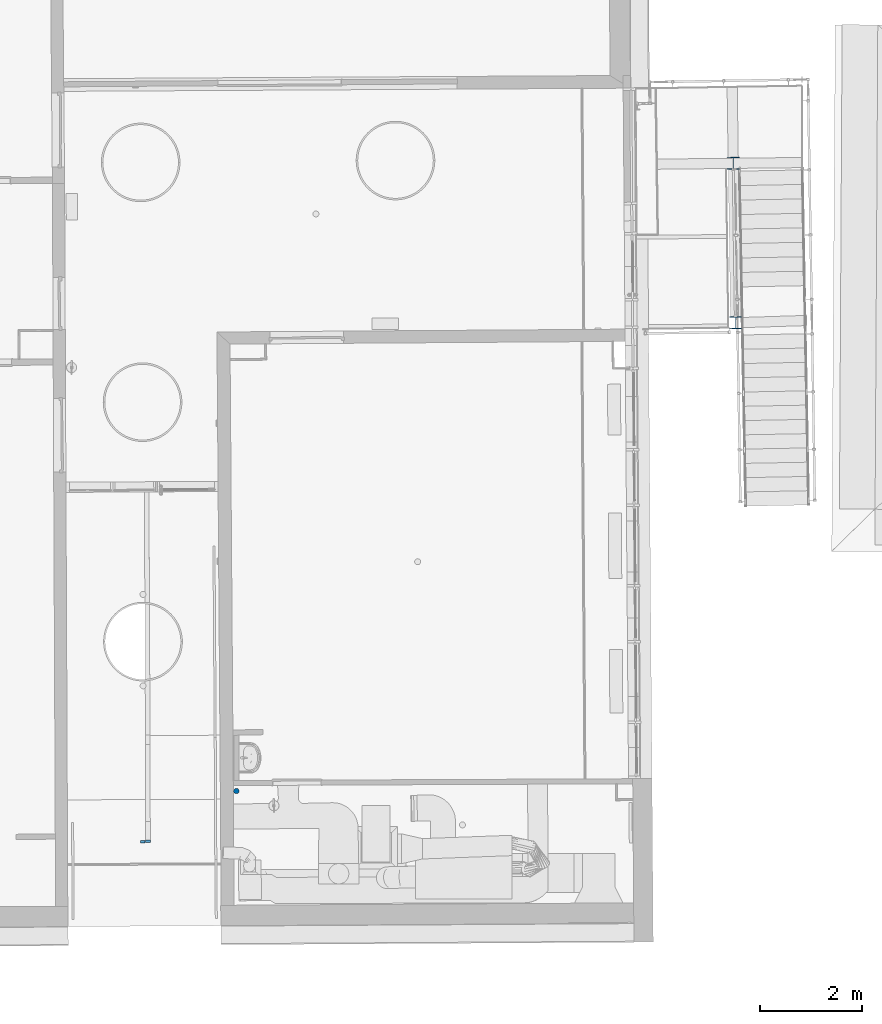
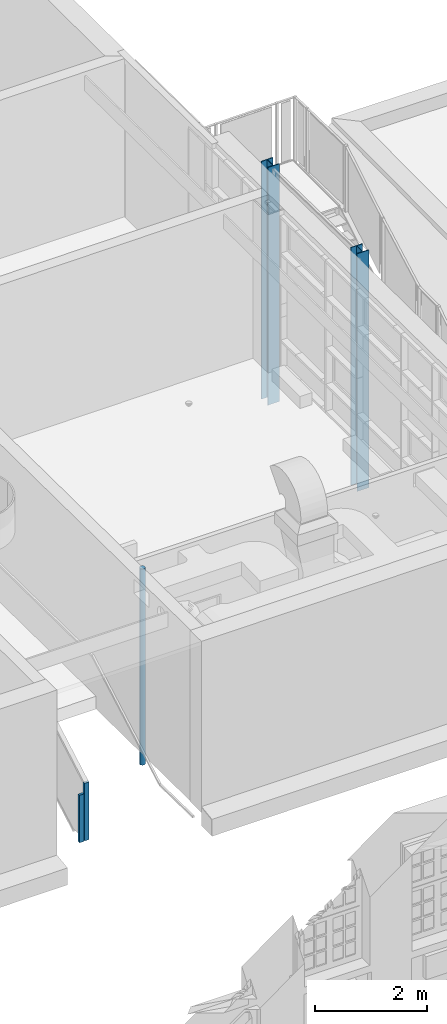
# One storey, part 1 of 158: 5 columns.
"""IFC2X3 building model written with IfcOpenShell, lengths in metres."""

from ifc_helpers import new_model, entity, si_unit, converted_unit, derived_unit, money_unit, direction, frame, origin_with_axes, origin_2d_with_axis, place, context, subcontext, project, spatial, polyline, rectangle, circle, outline, extrude, material, type_object, element, save


model = new_model("IFC2X3")

# Units and contexts
model_context = context("Model", 3, precision=1e-05, world=origin_with_axes(), true_north=direction((0.0, 1.0)))
body_context = subcontext(model_context, "Body", "Model", "MODEL_VIEW")
ifc_project = project(units=[si_unit("LENGTHUNIT", "METRE"), si_unit("AREAUNIT", "SQUARE_METRE"), si_unit("VOLUMEUNIT", "CUBIC_METRE"), converted_unit("PLANEANGLEUNIT", "DEGREE", entity("IfcPlaneAngleMeasure", 0.0174532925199), si_unit("PLANEANGLEUNIT", "RADIAN"), dimensions=[0, 0, 0, 0, 0, 0, 0]), money_unit("EUR"), converted_unit("TIMEUNIT", "Year", entity("IfcTimeMeasure", 31556926.0), si_unit("TIMEUNIT", "SECOND"), dimensions=[0, 0, 1, 0, 0, 0, 0]), si_unit("MASSUNIT", "GRAM", prefix="KILO"), si_unit("THERMODYNAMICTEMPERATUREUNIT", "DEGREE_CELSIUS"), si_unit("LUMINOUSINTENSITYUNIT", "LUMEN"), si_unit("ENERGYUNIT", "JOULE", prefix="MEGA"), derived_unit("THERMALCONDUCTANCEUNIT", [(si_unit("POWERUNIT", "WATT"), 1), (si_unit("LENGTHUNIT", "METRE"), -1), (si_unit("THERMODYNAMICTEMPERATUREUNIT", "KELVIN"), -1)]), derived_unit("SPECIFICHEATCAPACITYUNIT", [(si_unit("ENERGYUNIT", "JOULE"), 1), (si_unit("MASSUNIT", "GRAM", prefix="KILO"), -1), (si_unit("THERMODYNAMICTEMPERATUREUNIT", "KELVIN"), -1)]), derived_unit("MASSDENSITYUNIT", [(si_unit("MASSUNIT", "GRAM", prefix="KILO"), 1), (si_unit("VOLUMEUNIT", "CUBIC_METRE"), -1)])], contexts=[model_context])

# Site, building, storey
site_placement = place(None, origin_with_axes())
site = spatial("IfcSite", under=ifc_project, at=site_placement, Name="Gelände", CompositionType="ELEMENT")
building_placement = place(site_placement, origin_with_axes())
building = spatial("IfcBuilding", under=site, at=building_placement, Name="Gebäude", CompositionType="ELEMENT")
storey_placement = place(building_placement, origin_with_axes())
storey = spatial("IfcBuildingStorey", under=building, at=storey_placement, Name="ERDGESCHOSS", CompositionType="ELEMENT", Elevation=0.0)

# Columns
ifc_material_1 = material(Name="Stahl verzinkt")
column_type_1 = type_object("IfcColumnType", Name="HEB240 240 x 240", PredefinedType="COLUMN")
column_1_placement = place(storey_placement, frame((-13.5388601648, 42.7523263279, -2.52917666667), z_axis=(0.0, 0.0, 1.0), x_axis=(1.0, 0.0, 0.0)))
element("IfcColumn", 1, at=column_1_placement, inside=storey, type_object=column_type_1, material=ifc_material_1, Name="Stütze-008", ObjectType="COLUMN", context=body_context, shape_type="SweptSolid", body=[
    extrude(outline(polyline([(0.0, 0.12), (-0.12, 0.12), (-0.12, 0.103), (-0.005, 0.103), (-0.005, -0.103), (-0.12, -0.103), (-0.12, -0.12), (0.12, -0.12), (0.12, -0.103), (0.005, -0.103), (0.005, 0.103), (0.12, 0.103), (0.12, 0.12), (0.0, 0.12)])), frame((0.0, 0.0, 0.0), z_axis=(0.0, 0.0, 1.0), x_axis=(0.999999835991, -0.000572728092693, 0.0)), (0.0, 0.0, 1.0), 5.197256),
])
column_2_placement = place(storey_placement, frame((-13.5819187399, 45.8840327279, -2.52917666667), z_axis=(0.0, 0.0, 1.0), x_axis=(1.0, 0.0, 0.0)))
element("IfcColumn", 2, at=column_2_placement, inside=storey, type_object=column_type_1, material=ifc_material_1, Name="Stütze-008", ObjectType="COLUMN", context=body_context, shape_type="SweptSolid", body=[
    extrude(outline(polyline([(0.0, 0.12), (-0.12, 0.12), (-0.12, 0.103), (-0.005, 0.103), (-0.005, -0.103), (-0.12, -0.103), (-0.12, -0.12), (0.12, -0.12), (0.12, -0.103), (0.005, -0.103), (0.005, 0.103), (0.12, 0.103), (0.12, 0.12), (0.0, 0.12)])), frame((0.0, 0.0, 0.0), z_axis=(0.0, 0.0, 1.0), x_axis=(0.99992825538, 0.0119784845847, 0.0)), (0.0, 0.0, 1.0), 5.197256),
])
ifc_material_2 = material(Name="05_ALLGEMEIN - TRAGENDE BAUTEILE")
column_type_2 = type_object("IfcColumnType", Name="05_ALLGEMEIN - TRAGENDE BAUTEILE D106", PredefinedType="COLUMN")
column_3_placement = place(storey_placement, frame((-23.3438194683, 33.5533737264, 0.419766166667), z_axis=(0.0, 0.0, 1.0), x_axis=(1.0, 0.0, 0.0)))
element("IfcColumn", 3, at=column_3_placement, inside=storey, type_object=column_type_2, material=ifc_material_2, Name="Stütze-008", ObjectType="COLUMN", context=body_context, shape_type="SweptSolid", body=[
    extrude(circle(Radius=0.0532113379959, at=origin_2d_with_axis()), origin_with_axes(), (0.0, 0.0, 1.0), 4.29023383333),
])
column_type_3 = type_object("IfcColumnType", Name="05_ALLGEMEIN - TRAGENDE BAUTEILE 90 x 50", PredefinedType="COLUMN")
column_4_placement = place(storey_placement, frame((-25.078642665, 32.5641113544, -0.0360268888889), z_axis=(0.0, 0.0, 1.0), x_axis=(0.999938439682, -0.0110958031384, 0.0)))
element("IfcColumn", 4, at=column_4_placement, inside=storey, type_object=column_type_3, material=ifc_material_2, Name="Stütze-008", ObjectType="COLUMN", context=body_context, shape_type="SweptSolid", body=[
    extrude(rectangle(XDim=0.09, YDim=0.05, at=origin_2d_with_axis()), frame((0.0, 0.0, 0.0), z_axis=(0.0, 0.0, 1.0), x_axis=(0.99990269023, 0.013950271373, 0.0)), (0.0, 0.0, 1.0), 1.26044),
])
column_5_placement = place(storey_placement, frame((-25.1856903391, 32.561152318, -0.0360268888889), z_axis=(0.0, 0.0, 1.0), x_axis=(0.999999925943, -0.000384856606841, 0.0)))
element("IfcColumn", 5, at=column_5_placement, inside=storey, type_object=column_type_3, material=ifc_material_2, Name="Stütze-008", ObjectType="COLUMN", context=body_context, shape_type="SweptSolid", body=[
    extrude(rectangle(XDim=0.09, YDim=0.05, at=origin_2d_with_axis()), frame((0.0, 0.0, 0.0), z_axis=(0.0, 0.0, 1.0), x_axis=(0.99990269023, 0.013950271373, 0.0)), (0.0, 0.0, 1.0), 1.03864576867),
])

save(model, "model.ifc")
